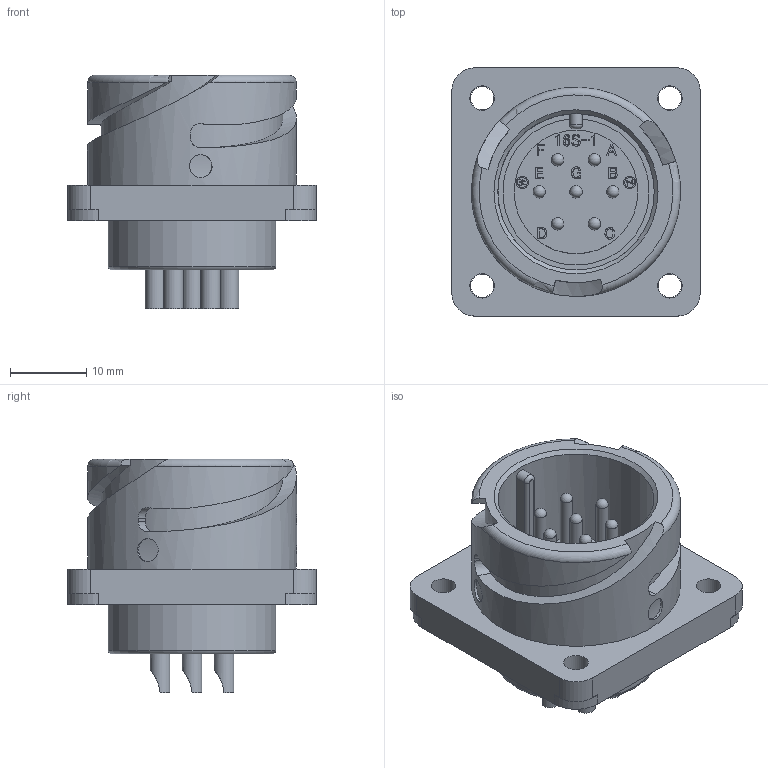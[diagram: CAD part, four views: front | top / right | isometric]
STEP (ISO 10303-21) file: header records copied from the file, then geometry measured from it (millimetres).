
FILE_DESCRIPTION (( 'STEP AP203' ), '1' );
FILE_NAME ('DCA3102R16S-1P-D(R1).STEP', '2021-12-22T09:29:56', ( '' ), ( '' ), 'SwSTEP 2.0', 'SolidWorks 2018', '' );
FILE_SCHEMA (( 'CONFIG_CONTROL_DESIGN' ));
Length unit declared in the file: millimetre
Products named in the file (1): DCA3102R16S-1P-D(R1)
Bounding box: 32.54 x 32.54 x 30.6 mm (x, y, z)
Volume: 10870.1 mm3; surface area: 6949.1 mm2
Topology: 1 solids, 1 shells, 625 faces, 1673 edges, 1101 vertices
Faces by surface type: plane 289, bspline 235, cylinder 73, cone 16, sphere 7, torus 5
Full cylindrical faces by diameter (mm): 1.3 x4, 1.6 x11, 1.8 x7, 2.6 x7, 3.05 x4, 3.2 x11, 16.2 x1, 20.5 x1, 22 x1, 27.4 x1
Entity records: 27630 total; most frequent: CARTESIAN_POINT 14061, ORIENTED_EDGE 3116, DIRECTION 1969, EDGE_CURVE 1558, VERTEX_POINT 1068, VECTOR 905, LINE 905, EDGE_LOOP 766
